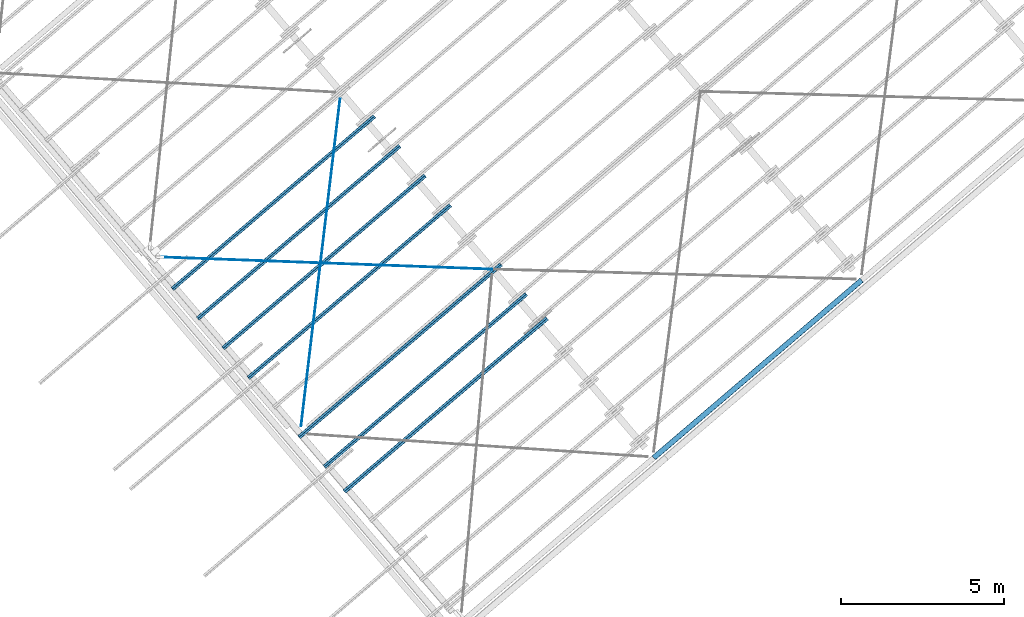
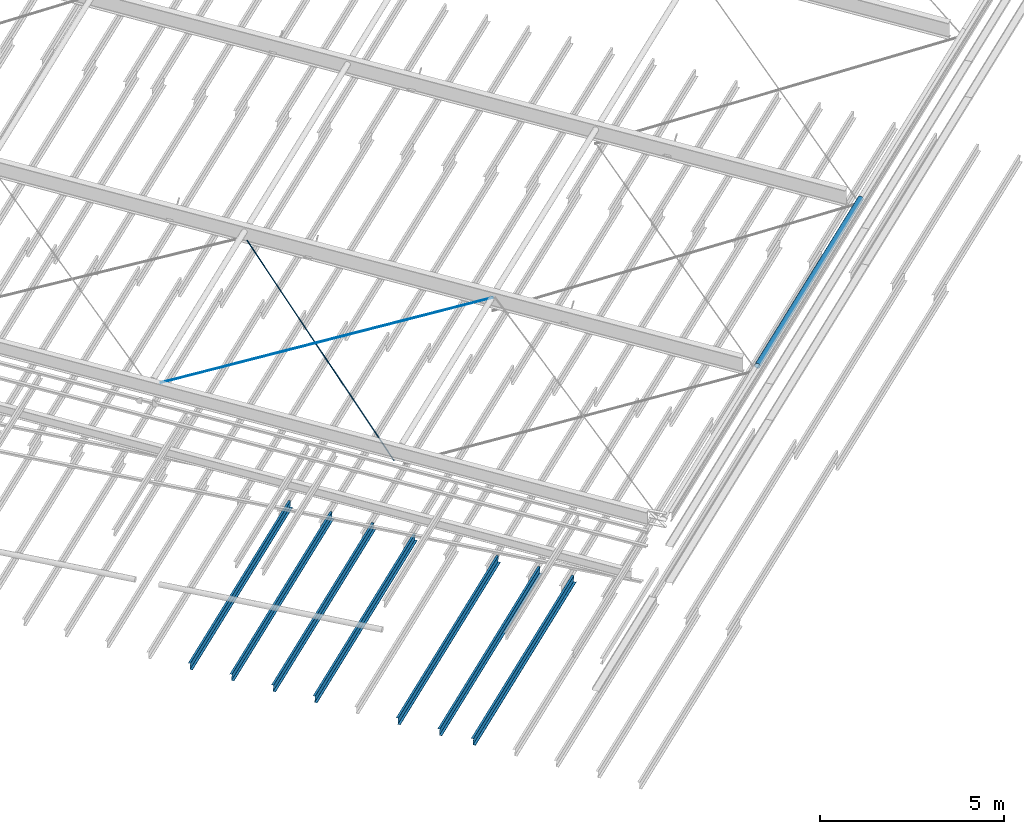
# One storey, part 4 of 25: 10 beams, 2 elements without a shape of their own.
"""IFC2X3 building model written with IfcOpenShell, lengths in millimetres."""

from ifc_helpers import new_model, entity, si_unit, converted_unit, derived_unit, direction, frame, frame_2d, origin, origin_2d_with_axis, place, context, subcontext, project, spatial, polyline, circle_curve, parameter, trimmed, segment, composite_curve, circle, hollow_circle, outline, extrude, material, type_object, element, aggregate, save


model = new_model("IFC2X3")

# Units and contexts
model_context = context("Model", 3, precision=0.01, world=origin(), true_north=direction((6.123031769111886e-17, 1.0)))
body_context = subcontext(model_context, "Body", "Model", "MODEL_VIEW")
ifc_project = project(units=[si_unit("LENGTHUNIT", "METRE", prefix="MILLI"), si_unit("AREAUNIT", "SQUARE_METRE"), si_unit("VOLUMEUNIT", "CUBIC_METRE"), converted_unit("PLANEANGLEUNIT", "DEGREE", entity("IfcRatioMeasure", 0.017453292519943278), si_unit("PLANEANGLEUNIT", "RADIAN"), dimensions=[0, 0, 0, 0, 0, 0, 0]), si_unit("MASSUNIT", "GRAM", prefix="KILO"), derived_unit("MASSDENSITYUNIT", [(si_unit("MASSUNIT", "GRAM", prefix="KILO"), 1), (si_unit("LENGTHUNIT", "METRE"), -3)]), derived_unit("MOMENTOFINERTIAUNIT", [(si_unit("LENGTHUNIT", "METRE"), 4)]), si_unit("TIMEUNIT", "SECOND"), si_unit("FREQUENCYUNIT", "HERTZ"), si_unit("THERMODYNAMICTEMPERATUREUNIT", "DEGREE_CELSIUS"), derived_unit("THERMALTRANSMITTANCEUNIT", [(si_unit("MASSUNIT", "GRAM", prefix="KILO"), 1), (si_unit("THERMODYNAMICTEMPERATUREUNIT", "KELVIN"), -1), (si_unit("TIMEUNIT", "SECOND"), -3)]), derived_unit("VOLUMETRICFLOWRATEUNIT", [(si_unit("LENGTHUNIT", "METRE"), 3), (si_unit("TIMEUNIT", "SECOND"), -1)]), derived_unit("MASSFLOWRATEUNIT", [(si_unit("MASSUNIT", "GRAM", prefix="KILO"), 1), (si_unit("TIMEUNIT", "SECOND"), -1)]), derived_unit("ROTATIONALFREQUENCYUNIT", [(si_unit("TIMEUNIT", "SECOND"), -1)]), si_unit("ELECTRICCURRENTUNIT", "AMPERE"), si_unit("ELECTRICVOLTAGEUNIT", "VOLT"), si_unit("POWERUNIT", "WATT"), si_unit("FORCEUNIT", "NEWTON", prefix="KILO"), si_unit("ILLUMINANCEUNIT", "LUX"), si_unit("LUMINOUSFLUXUNIT", "LUMEN"), si_unit("LUMINOUSINTENSITYUNIT", "CANDELA"), derived_unit("USERDEFINED", [(si_unit("MASSUNIT", "GRAM", prefix="KILO"), -1), (si_unit("LENGTHUNIT", "METRE"), -2), (si_unit("TIMEUNIT", "SECOND"), 3), (si_unit("LUMINOUSFLUXUNIT", "LUMEN"), 1)]), derived_unit("SOUNDPOWERUNIT", [(si_unit("MASSUNIT", "GRAM", prefix="KILO"), 1), (si_unit("LENGTHUNIT", "METRE"), 2), (si_unit("TIMEUNIT", "SECOND"), -3)]), derived_unit("LINEARVELOCITYUNIT", [(si_unit("LENGTHUNIT", "METRE"), 1), (si_unit("TIMEUNIT", "SECOND"), -1)]), si_unit("PRESSUREUNIT", "PASCAL"), derived_unit("USERDEFINED", [(si_unit("LENGTHUNIT", "METRE"), -2), (si_unit("MASSUNIT", "GRAM", prefix="KILO"), 1), (si_unit("TIMEUNIT", "SECOND"), -2)]), derived_unit("LINEARFORCEUNIT", [(si_unit("MASSUNIT", "GRAM", prefix="KILO"), 1), (si_unit("LENGTHUNIT", "METRE"), 1), (si_unit("TIMEUNIT", "SECOND"), -2), (si_unit("LENGTHUNIT", "METRE"), -1)]), derived_unit("PLANARFORCEUNIT", [(si_unit("MASSUNIT", "GRAM", prefix="KILO"), 1), (si_unit("LENGTHUNIT", "METRE"), 1), (si_unit("TIMEUNIT", "SECOND"), -2), (si_unit("LENGTHUNIT", "METRE"), -2)])], contexts=[model_context])

# Site, building, storey
site_placement = place(None, frame((962.4174930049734, -6014.433753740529, 0.0), z_axis=(0.0, 0.0, 1.0), x_axis=(0.7601792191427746, 0.649713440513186, 0.0)))
site = spatial("IfcSite", under=ifc_project, at=site_placement, Name="Default", CompositionType="ELEMENT")
building_placement = place(site_placement, origin())
building = spatial("IfcBuilding", under=site, at=building_placement, CompositionType="ELEMENT")
storey_placement = place(building_placement, frame((0.0, 0.0, 9200.0)))
storey = spatial("IfcBuildingStorey", under=building, at=storey_placement, Name="TOP OF CEILING", CompositionType="ELEMENT", Elevation=9200.000000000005)

# Beams
ifc_material_1 = material(Name="Metal - Steel - 300 MPa")
beam_type_1 = type_object("IfcBeamType", Name="ADSK_AU_CHS-Circular Hollow Sections (AS 1163_C350):168.3x6.4CHS", PredefinedType="NOTDEFINED")
beam_1_placement = place(storey_placement, frame((162338.96020470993, -25988.428082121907, 2036.6362333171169)))
element("IfcBeam", 1, at=beam_1_placement, inside=storey, type_object=beam_type_1, material=ifc_material_1, Name="ADSK_AU_CHS-Circular Hollow Sections (AS 1163_C350):168.3x6.4CHS", ObjectType="ADSK_AU_CHS-Circular Hollow Sections (AS 1163_C350):168.3x6.4CHS", context=body_context, shape_type="SweptSolid", body=[
    extrude(hollow_circle(Radius=84.15000000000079, WallThickness=6.4000000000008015, at=origin_2d_with_axis()), frame((0.0, 0.0, -84.15000000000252), z_axis=(1.0, 0.0, 0.0), x_axis=(0.0, 1.0, 0.0)), (0.0, 0.0, 1.0), 8400.000000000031),
])
beam_type_2 = type_object("IfcBeamType", Name="ADSK_AU_Round Bars (AS 3679_1):24ROD", PredefinedType="NOTDEFINED")
beam_2_placement = place(storey_placement, frame((154571.26020471, -18370.815582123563, 2010.0), z_axis=(-0.055954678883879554, -0.0515895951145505, 0.9970995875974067), x_axis=(0.733069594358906, 0.675882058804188, 0.07610789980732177)))
element("IfcBeam", 2, at=beam_2_placement, inside=storey, type_object=beam_type_2, Name="ADSK_AU_Round Bars (AS 3679_1):24ROD", ObjectType="ADSK_AU_Round Bars (AS 3679_1):24ROD", context=body_context, shape_type="SweptSolid", body=[
    extrude(circle(Radius=12.000000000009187, at=frame_2d((-6.253873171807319e-24, -8.637810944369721e-12), x_axis=(1.0, 0.0))), frame((233.09999999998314, 0.0, -12.0), z_axis=(1.0, 0.0, 0.0), x_axis=(0.0, -1.0, 0.0)), (0.0, 0.0, 1.0), 10146.900000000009),
])
beam_3_placement = place(storey_placement, frame((162338.96020470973, -18370.81558212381, 2450.0), z_axis=(0.03747797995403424, -0.03448641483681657, 0.9987022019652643), x_axis=(-0.7349107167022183, 0.6762487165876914, 0.05093046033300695)))
element("IfcBeam", 3, at=beam_3_placement, inside=storey, type_object=beam_type_2, Name="ADSK_AU_Round Bars (AS 3679_1):24ROD", ObjectType="ADSK_AU_Round Bars (AS 3679_1):24ROD", context=body_context, shape_type="SweptSolid", body=[
    extrude(circle(Radius=12.000000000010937, at=frame_2d((-1.5936896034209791e-12, -1.3052229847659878e-11), x_axis=(1.0, 0.0))), frame((0.0, 0.0, -12.0), z_axis=(1.0, 0.0, 0.0), x_axis=(0.0, -1.0, 0.0)), (0.0, 0.0, 1.0), 10210.000000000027),
])

# Assembly, beams
assembly_1_placement = place(storey_placement, origin())
assembly_1 = element("IfcElementAssembly", 4, at=assembly_1_placement, inside=storey, Name="Structural Beam System:Structural Beam System 1", ObjectType="Structural Beam System:Structural Beam System 1", AssemblyPlace="NOTDEFINED", PredefinedType="BEAM_GRID")
ifc_material_2 = material(Name="Metal - Steel - 345 MPa")
beam_type_3 = type_object("IfcBeamType", Name="ADSK_AU_Light Gauge-Zeds:Z20015", PredefinedType="NOTDEFINED")
beam_4_placement = place(building_placement, frame((162638.96020471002, -12444.667171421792, 3319.7924881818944), z_axis=(0.0, 0.0, 1.0), x_axis=(-1.0, 0.0, 0.0)))
beam_4 = element("IfcBeam", 5, at=beam_4_placement, type_object=beam_type_3, material=ifc_material_2, Name="ADSK_AU_Light Gauge-Zeds:Z20015", ObjectType="ADSK_AU_Light Gauge-Zeds:Z20015", context=body_context, shape_type="SweptSolid", body=[
    extrude(outline(composite_curve([segment(polyline([(100.0, 1.0), (100.0, -69.0)]), True, "CONTINUOUS"), segment(trimmed(circle_curve(frame_2d((98.0, -69.0), x_axis=(0.0, -1.0)), 2.000000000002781), [parameter(0.0)], [parameter(89.99999999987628)], True, "PARAMETER"), False, "CONTINUOUS"), segment(polyline([(98.0, -71.0), (81.49999999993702, -71.0)]), True, "CONTINUOUS"), segment(polyline([(81.49999999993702, -71.0), (81.49999999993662, -72.50000000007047)]), True, "CONTINUOUS"), segment(polyline([(81.49999999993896, -72.50000000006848), (98.0, -72.5000000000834)]), True, "CONTINUOUS"), segment(trimmed(circle_curve(frame_2d((98.0, -69.0), x_axis=(1.0, 0.0)), 3.5000000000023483), [parameter(270.00000000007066)], [parameter(0.0)], True, "PARAMETER"), True, "CONTINUOUS"), segment(polyline([(101.49999999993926, -69.0), (101.50000000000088, 1.0)]), True, "CONTINUOUS"), segment(trimmed(circle_curve(frame_2d((98.0, 1.0), x_axis=(0.0, 1.0)), 3.500000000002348), [parameter(270.00000000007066)], [parameter(0.0)], True, "PARAMETER"), True, "CONTINUOUS"), segment(polyline([(98.0, 4.49999999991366), (-98.0, 4.500000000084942)]), True, "CONTINUOUS"), segment(trimmed(circle_curve(frame_2d((-98.0, 6.500000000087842), x_axis=(-1.0, 0.0)), 2.0000000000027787), [parameter(0.0)], [parameter(89.99999999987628)], True, "PARAMETER"), False, "CONTINUOUS"), segment(polyline([(-100.0, 6.500000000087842), (-100.0, 64.0)]), True, "CONTINUOUS"), segment(trimmed(circle_curve(frame_2d((-98.0, 64.0), x_axis=(0.0, 1.0)), 2.000000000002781), [parameter(0.0)], [parameter(89.99999999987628)], True, "PARAMETER"), False, "CONTINUOUS"), segment(polyline([(-98.0, 66.0), (-81.49999999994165, 66.0)]), True, "CONTINUOUS"), segment(polyline([(-81.4999999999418, 66.0), (-81.49999999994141, 67.5000000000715)]), True, "CONTINUOUS"), segment(polyline([(-81.49999999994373, 67.50000000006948), (-98.0, 67.50000000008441)]), True, "CONTINUOUS"), segment(trimmed(circle_curve(frame_2d((-98.0, 64.0), x_axis=(-1.0, 0.0)), 3.500000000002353), [parameter(270.00000000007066)], [parameter(0.0)], True, "PARAMETER"), True, "CONTINUOUS"), segment(polyline([(-101.49999999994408, 64.0), (-101.4999999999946, 6.500000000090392)]), True, "CONTINUOUS"), segment(trimmed(circle_curve(frame_2d((-98.0, 6.500000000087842), x_axis=(0.0, -1.0)), 3.5000000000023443), [parameter(270.00000000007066)], [parameter(0.0)], True, "PARAMETER"), True, "CONTINUOUS"), segment(polyline([(-98.0, 3.0), (98.0, 3.0)]), True, "CONTINUOUS"), segment(trimmed(circle_curve(frame_2d((98.0, 1.0), x_axis=(1.0, 0.0)), 2.000000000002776), [parameter(0.0)], [parameter(89.99999999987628)], True, "PARAMETER"), False, "CONTINUOUS")], self_intersect=False)), frame((0.013129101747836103, -2.5912438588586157, -101.56665523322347), z_axis=(-1.0, 0.0, 0.0), x_axis=(0.0, -0.06975647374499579, -0.9975640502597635)), (0.0, 0.0, -1.0), 8164.000000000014),
])
beam_5_placement = place(building_placement, frame((162638.96020471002, -13641.744031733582, 3236.0847196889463), z_axis=(0.0, 0.0, 1.0), x_axis=(-1.0, 0.0, 0.0)))
beam_5 = element("IfcBeam", 6, at=beam_5_placement, type_object=beam_type_3, material=ifc_material_2, Name="ADSK_AU_Light Gauge-Zeds:Z20015", ObjectType="ADSK_AU_Light Gauge-Zeds:Z20015", context=body_context, shape_type="SweptSolid", body=[
    extrude(outline(composite_curve([segment(polyline([(100.0, 1.0), (100.0, -69.0)]), True, "CONTINUOUS"), segment(trimmed(circle_curve(frame_2d((98.0, -69.0), x_axis=(0.0, -1.0)), 2.000000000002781), [parameter(0.0)], [parameter(89.99999999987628)], True, "PARAMETER"), False, "CONTINUOUS"), segment(polyline([(98.0, -71.0), (81.49999999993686, -71.0)]), True, "CONTINUOUS"), segment(polyline([(81.49999999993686, -71.0), (81.49999999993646, -72.50000000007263)]), True, "CONTINUOUS"), segment(polyline([(81.49999999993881, -72.50000000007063), (98.0, -72.50000000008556)]), True, "CONTINUOUS"), segment(trimmed(circle_curve(frame_2d((98.0, -69.0), x_axis=(1.0, 0.0)), 3.5000000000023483), [parameter(270.00000000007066)], [parameter(0.0)], True, "PARAMETER"), True, "CONTINUOUS"), segment(polyline([(101.49999999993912, -69.0), (101.50000000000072, 1.0)]), True, "CONTINUOUS"), segment(trimmed(circle_curve(frame_2d((98.0, 1.0), x_axis=(0.0, 1.0)), 3.500000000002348), [parameter(270.00000000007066)], [parameter(0.0)], True, "PARAMETER"), True, "CONTINUOUS"), segment(polyline([(98.0, 4.4999999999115), (-98.0, 4.500000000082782)]), True, "CONTINUOUS"), segment(trimmed(circle_curve(frame_2d((-98.0, 6.500000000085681), x_axis=(-1.0, 0.0)), 2.0000000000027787), [parameter(0.0)], [parameter(89.99999999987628)], True, "PARAMETER"), False, "CONTINUOUS"), segment(polyline([(-100.0, 6.500000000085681), (-100.0, 64.0)]), True, "CONTINUOUS"), segment(trimmed(circle_curve(frame_2d((-98.0, 64.0), x_axis=(0.0, 1.0)), 2.000000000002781), [parameter(0.0)], [parameter(89.99999999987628)], True, "PARAMETER"), False, "CONTINUOUS"), segment(polyline([(-98.0, 66.0), (-81.4999999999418, 66.0)]), True, "CONTINUOUS"), segment(polyline([(-81.49999999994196, 66.0), (-81.49999999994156, 67.50000000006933)]), True, "CONTINUOUS"), segment(polyline([(-81.49999999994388, 67.50000000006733), (-98.0, 67.50000000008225)]), True, "CONTINUOUS"), segment(trimmed(circle_curve(frame_2d((-98.0, 64.0), x_axis=(-1.0, 0.0)), 3.500000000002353), [parameter(270.00000000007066)], [parameter(0.0)], True, "PARAMETER"), True, "CONTINUOUS"), segment(polyline([(-101.49999999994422, 64.0), (-101.49999999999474, 6.500000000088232)]), True, "CONTINUOUS"), segment(trimmed(circle_curve(frame_2d((-98.0, 6.500000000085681), x_axis=(0.0, -1.0)), 3.5000000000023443), [parameter(270.00000000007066)], [parameter(0.0)], True, "PARAMETER"), True, "CONTINUOUS"), segment(polyline([(-98.0, 3.0), (98.0, 3.0)]), True, "CONTINUOUS"), segment(trimmed(circle_curve(frame_2d((98.0, 1.0), x_axis=(1.0, 0.0)), 2.000000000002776), [parameter(0.0)], [parameter(89.99999999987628)], True, "PARAMETER"), False, "CONTINUOUS")], self_intersect=False)), frame((0.013129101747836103, -2.5912438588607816, -101.56665523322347), z_axis=(-1.0, 0.0, 0.0), x_axis=(0.0, -0.06975647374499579, -0.9975640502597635)), (0.0, 0.0, -1.0), 8164.000000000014),
])
beam_6_placement = place(building_placement, frame((162638.96020471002, -14838.82089204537, 3152.3769511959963), z_axis=(0.0, 0.0, 1.0), x_axis=(-1.0, 0.0, 0.0)))
beam_6 = element("IfcBeam", 7, at=beam_6_placement, type_object=beam_type_3, material=ifc_material_2, Name="ADSK_AU_Light Gauge-Zeds:Z20015", ObjectType="ADSK_AU_Light Gauge-Zeds:Z20015", context=body_context, shape_type="SweptSolid", body=[
    extrude(outline(composite_curve([segment(polyline([(100.0, 1.0), (100.0, -69.0)]), True, "CONTINUOUS"), segment(trimmed(circle_curve(frame_2d((98.0, -69.0), x_axis=(0.0, -1.0)), 2.000000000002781), [parameter(0.0)], [parameter(89.99999999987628)], True, "PARAMETER"), False, "CONTINUOUS"), segment(polyline([(98.0, -71.0), (81.49999999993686, -71.0)]), True, "CONTINUOUS"), segment(polyline([(81.49999999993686, -71.0), (81.49999999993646, -72.50000000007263)]), True, "CONTINUOUS"), segment(polyline([(81.49999999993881, -72.50000000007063), (98.0, -72.50000000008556)]), True, "CONTINUOUS"), segment(trimmed(circle_curve(frame_2d((98.0, -69.0), x_axis=(1.0, 0.0)), 3.5000000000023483), [parameter(270.00000000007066)], [parameter(0.0)], True, "PARAMETER"), True, "CONTINUOUS"), segment(polyline([(101.49999999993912, -69.0), (101.50000000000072, 1.0)]), True, "CONTINUOUS"), segment(trimmed(circle_curve(frame_2d((98.0, 1.0), x_axis=(0.0, 1.0)), 3.500000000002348), [parameter(270.00000000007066)], [parameter(0.0)], True, "PARAMETER"), True, "CONTINUOUS"), segment(polyline([(98.0, 4.4999999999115), (-98.0, 4.500000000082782)]), True, "CONTINUOUS"), segment(trimmed(circle_curve(frame_2d((-98.0, 6.500000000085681), x_axis=(-1.0, 0.0)), 2.0000000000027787), [parameter(0.0)], [parameter(89.99999999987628)], True, "PARAMETER"), False, "CONTINUOUS"), segment(polyline([(-100.0, 6.500000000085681), (-100.0, 64.0)]), True, "CONTINUOUS"), segment(trimmed(circle_curve(frame_2d((-98.0, 64.0), x_axis=(0.0, 1.0)), 2.000000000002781), [parameter(0.0)], [parameter(89.99999999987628)], True, "PARAMETER"), False, "CONTINUOUS"), segment(polyline([(-98.0, 66.0), (-81.4999999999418, 66.0)]), True, "CONTINUOUS"), segment(polyline([(-81.49999999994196, 66.0), (-81.49999999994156, 67.50000000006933)]), True, "CONTINUOUS"), segment(polyline([(-81.49999999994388, 67.50000000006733), (-98.0, 67.50000000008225)]), True, "CONTINUOUS"), segment(trimmed(circle_curve(frame_2d((-98.0, 64.0), x_axis=(-1.0, 0.0)), 3.500000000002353), [parameter(270.00000000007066)], [parameter(0.0)], True, "PARAMETER"), True, "CONTINUOUS"), segment(polyline([(-101.49999999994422, 64.0), (-101.49999999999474, 6.500000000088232)]), True, "CONTINUOUS"), segment(trimmed(circle_curve(frame_2d((-98.0, 6.500000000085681), x_axis=(0.0, -1.0)), 3.5000000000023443), [parameter(270.00000000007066)], [parameter(0.0)], True, "PARAMETER"), True, "CONTINUOUS"), segment(polyline([(-98.0, 3.0), (98.0, 3.0)]), True, "CONTINUOUS"), segment(trimmed(circle_curve(frame_2d((98.0, 1.0), x_axis=(1.0, 0.0)), 2.000000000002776), [parameter(0.0)], [parameter(89.99999999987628)], True, "PARAMETER"), False, "CONTINUOUS")], self_intersect=False)), frame((0.013129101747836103, -2.5912438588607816, -101.56665523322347), z_axis=(-1.0, 0.0, 0.0), x_axis=(0.0, -0.06975647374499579, -0.9975640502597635)), (0.0, 0.0, -1.0), 8164.000000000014),
])
beam_7_placement = place(building_placement, frame((162638.96020471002, -16035.89775235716, 3068.6691827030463), z_axis=(0.0, 0.0, 1.0), x_axis=(-1.0, 0.0, 0.0)))
beam_7 = element("IfcBeam", 8, at=beam_7_placement, type_object=beam_type_3, material=ifc_material_2, Name="ADSK_AU_Light Gauge-Zeds:Z20015", ObjectType="ADSK_AU_Light Gauge-Zeds:Z20015", context=body_context, shape_type="SweptSolid", body=[
    extrude(outline(composite_curve([segment(polyline([(100.0, 1.0), (100.0, -69.0)]), True, "CONTINUOUS"), segment(trimmed(circle_curve(frame_2d((98.0, -69.0), x_axis=(0.0, -1.0)), 2.000000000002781), [parameter(0.0)], [parameter(89.99999999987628)], True, "PARAMETER"), False, "CONTINUOUS"), segment(polyline([(98.0, -71.0), (81.49999999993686, -71.0)]), True, "CONTINUOUS"), segment(polyline([(81.49999999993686, -71.0), (81.49999999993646, -72.50000000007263)]), True, "CONTINUOUS"), segment(polyline([(81.49999999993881, -72.50000000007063), (98.0, -72.50000000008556)]), True, "CONTINUOUS"), segment(trimmed(circle_curve(frame_2d((98.0, -69.0), x_axis=(1.0, 0.0)), 3.5000000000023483), [parameter(270.00000000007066)], [parameter(0.0)], True, "PARAMETER"), True, "CONTINUOUS"), segment(polyline([(101.49999999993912, -69.0), (101.50000000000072, 1.0)]), True, "CONTINUOUS"), segment(trimmed(circle_curve(frame_2d((98.0, 1.0), x_axis=(0.0, 1.0)), 3.500000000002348), [parameter(270.00000000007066)], [parameter(0.0)], True, "PARAMETER"), True, "CONTINUOUS"), segment(polyline([(98.0, 4.4999999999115), (-98.0, 4.500000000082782)]), True, "CONTINUOUS"), segment(trimmed(circle_curve(frame_2d((-98.0, 6.500000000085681), x_axis=(-1.0, 0.0)), 2.0000000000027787), [parameter(0.0)], [parameter(89.99999999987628)], True, "PARAMETER"), False, "CONTINUOUS"), segment(polyline([(-100.0, 6.500000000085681), (-100.0, 64.0)]), True, "CONTINUOUS"), segment(trimmed(circle_curve(frame_2d((-98.0, 64.0), x_axis=(0.0, 1.0)), 2.000000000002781), [parameter(0.0)], [parameter(89.99999999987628)], True, "PARAMETER"), False, "CONTINUOUS"), segment(polyline([(-98.0, 66.0), (-81.4999999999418, 66.0)]), True, "CONTINUOUS"), segment(polyline([(-81.49999999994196, 66.0), (-81.49999999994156, 67.50000000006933)]), True, "CONTINUOUS"), segment(polyline([(-81.49999999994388, 67.50000000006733), (-98.0, 67.50000000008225)]), True, "CONTINUOUS"), segment(trimmed(circle_curve(frame_2d((-98.0, 64.0), x_axis=(-1.0, 0.0)), 3.500000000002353), [parameter(270.00000000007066)], [parameter(0.0)], True, "PARAMETER"), True, "CONTINUOUS"), segment(polyline([(-101.49999999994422, 64.0), (-101.49999999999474, 6.500000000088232)]), True, "CONTINUOUS"), segment(trimmed(circle_curve(frame_2d((-98.0, 6.500000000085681), x_axis=(0.0, -1.0)), 3.5000000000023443), [parameter(270.00000000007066)], [parameter(0.0)], True, "PARAMETER"), True, "CONTINUOUS"), segment(polyline([(-98.0, 3.0), (98.0, 3.0)]), True, "CONTINUOUS"), segment(trimmed(circle_curve(frame_2d((98.0, 1.0), x_axis=(1.0, 0.0)), 2.000000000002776), [parameter(0.0)], [parameter(89.99999999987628)], True, "PARAMETER"), False, "CONTINUOUS")], self_intersect=False)), frame((0.013129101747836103, -2.5912438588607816, -101.56665523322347), z_axis=(-1.0, 0.0, 0.0), x_axis=(0.0, -0.06975647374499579, -0.9975640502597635)), (0.0, 0.0, -1.0), 8164.000000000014),
])
beam_8_placement = place(building_placement, frame((162638.96020471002, -18430.051472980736, 2901.253645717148), z_axis=(0.0, 0.0, 1.0), x_axis=(-1.0, 0.0, 0.0)))
beam_8 = element("IfcBeam", 9, at=beam_8_placement, type_object=beam_type_3, material=ifc_material_2, Name="ADSK_AU_Light Gauge-Zeds:Z20015", ObjectType="ADSK_AU_Light Gauge-Zeds:Z20015", context=body_context, shape_type="SweptSolid", body=[
    extrude(outline(composite_curve([segment(polyline([(100.0, 1.0), (100.0, -69.0)]), True, "CONTINUOUS"), segment(trimmed(circle_curve(frame_2d((98.0, -69.0), x_axis=(0.0, -1.0)), 2.000000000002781), [parameter(0.0)], [parameter(89.99999999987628)], True, "PARAMETER"), False, "CONTINUOUS"), segment(polyline([(98.0, -71.0), (81.49999999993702, -71.0)]), True, "CONTINUOUS"), segment(polyline([(81.49999999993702, -71.0), (81.49999999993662, -72.50000000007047)]), True, "CONTINUOUS"), segment(polyline([(81.49999999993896, -72.50000000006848), (98.0, -72.5000000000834)]), True, "CONTINUOUS"), segment(trimmed(circle_curve(frame_2d((98.0, -69.0), x_axis=(1.0, 0.0)), 3.5000000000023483), [parameter(270.00000000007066)], [parameter(0.0)], True, "PARAMETER"), True, "CONTINUOUS"), segment(polyline([(101.49999999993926, -69.0), (101.50000000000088, 1.0)]), True, "CONTINUOUS"), segment(trimmed(circle_curve(frame_2d((98.0, 1.0), x_axis=(0.0, 1.0)), 3.500000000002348), [parameter(270.00000000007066)], [parameter(0.0)], True, "PARAMETER"), True, "CONTINUOUS"), segment(polyline([(98.0, 4.49999999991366), (-98.0, 4.500000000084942)]), True, "CONTINUOUS"), segment(trimmed(circle_curve(frame_2d((-98.0, 6.500000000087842), x_axis=(-1.0, 0.0)), 2.0000000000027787), [parameter(0.0)], [parameter(89.99999999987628)], True, "PARAMETER"), False, "CONTINUOUS"), segment(polyline([(-100.0, 6.500000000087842), (-100.0, 64.0)]), True, "CONTINUOUS"), segment(trimmed(circle_curve(frame_2d((-98.0, 64.0), x_axis=(0.0, 1.0)), 2.000000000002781), [parameter(0.0)], [parameter(89.99999999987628)], True, "PARAMETER"), False, "CONTINUOUS"), segment(polyline([(-98.0, 66.0), (-81.49999999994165, 66.0)]), True, "CONTINUOUS"), segment(polyline([(-81.4999999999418, 66.0), (-81.49999999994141, 67.5000000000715)]), True, "CONTINUOUS"), segment(polyline([(-81.49999999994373, 67.50000000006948), (-98.0, 67.50000000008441)]), True, "CONTINUOUS"), segment(trimmed(circle_curve(frame_2d((-98.0, 64.0), x_axis=(-1.0, 0.0)), 3.500000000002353), [parameter(270.00000000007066)], [parameter(0.0)], True, "PARAMETER"), True, "CONTINUOUS"), segment(polyline([(-101.49999999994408, 64.0), (-101.4999999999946, 6.500000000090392)]), True, "CONTINUOUS"), segment(trimmed(circle_curve(frame_2d((-98.0, 6.500000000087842), x_axis=(0.0, -1.0)), 3.5000000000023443), [parameter(270.00000000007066)], [parameter(0.0)], True, "PARAMETER"), True, "CONTINUOUS"), segment(polyline([(-98.0, 3.0), (98.0, 3.0)]), True, "CONTINUOUS"), segment(trimmed(circle_curve(frame_2d((98.0, 1.0), x_axis=(1.0, 0.0)), 2.000000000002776), [parameter(0.0)], [parameter(89.99999999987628)], True, "PARAMETER"), False, "CONTINUOUS")], self_intersect=False)), frame((0.013129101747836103, -2.5912438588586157, -101.56665523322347), z_axis=(-1.0, 0.0, 0.0), x_axis=(0.0, -0.06975647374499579, -0.9975640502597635)), (0.0, 0.0, -1.0), 8164.000000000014),
])
beam_9_placement = place(building_placement, frame((162638.96020471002, -19627.128333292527, 2817.5458772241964), z_axis=(0.0, 0.0, 1.0), x_axis=(-1.0, 0.0, 0.0)))
beam_9 = element("IfcBeam", 10, at=beam_9_placement, type_object=beam_type_3, material=ifc_material_2, Name="ADSK_AU_Light Gauge-Zeds:Z20015", ObjectType="ADSK_AU_Light Gauge-Zeds:Z20015", context=body_context, shape_type="SweptSolid", body=[
    extrude(outline(composite_curve([segment(polyline([(100.0, 1.0), (100.0, -69.0)]), True, "CONTINUOUS"), segment(trimmed(circle_curve(frame_2d((98.0, -69.0), x_axis=(0.0, -1.0)), 1.9999999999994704), [parameter(0.0)], [parameter(90.00000000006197)], True, "PARAMETER"), False, "CONTINUOUS"), segment(polyline([(98.0, -71.0), (81.50000000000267, -71.0)]), True, "CONTINUOUS"), segment(polyline([(81.50000000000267, -71.0), (81.50000000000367, -72.49999999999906)]), True, "CONTINUOUS"), segment(polyline([(81.50000000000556, -72.50000000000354), (98.0, -72.500000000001)]), True, "CONTINUOUS"), segment(trimmed(circle_curve(frame_2d((98.0, -69.0), x_axis=(1.0, 0.0)), 3.499999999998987), [parameter(269.99999999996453)], [parameter(0.0)], True, "PARAMETER"), True, "CONTINUOUS"), segment(polyline([(101.50000000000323, -69.0), (101.49999999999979, 1.0)]), True, "CONTINUOUS"), segment(trimmed(circle_curve(frame_2d((98.0, 1.0), x_axis=(0.0, 1.0)), 3.4999999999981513), [parameter(269.99999999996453)], [parameter(0.0)], True, "PARAMETER"), True, "CONTINUOUS"), segment(polyline([(98.0, 4.500000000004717), (-98.0, 4.499999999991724)]), True, "CONTINUOUS"), segment(trimmed(circle_curve(frame_2d((-98.0, 6.499999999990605), x_axis=(-1.0, 0.0)), 1.9999999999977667), [parameter(0.0)], [parameter(90.00000000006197)], True, "PARAMETER"), False, "CONTINUOUS"), segment(polyline([(-100.0, 6.499999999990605), (-100.0, 64.0)]), True, "CONTINUOUS"), segment(trimmed(circle_curve(frame_2d((-98.0, 64.0), x_axis=(0.0, 1.0)), 1.9999999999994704), [parameter(0.0)], [parameter(90.00000000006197)], True, "PARAMETER"), False, "CONTINUOUS"), segment(polyline([(-98.0, 66.0), (-81.50000000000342, 66.0)]), True, "CONTINUOUS"), segment(polyline([(-81.50000000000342, 66.0), (-81.50000000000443, 67.49999999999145)]), True, "CONTINUOUS"), segment(polyline([(-81.50000000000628, 67.49999999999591), (-98.0, 67.49999999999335)]), True, "CONTINUOUS"), segment(trimmed(circle_curve(frame_2d((-98.0, 64.0), x_axis=(-1.0, 0.0)), 3.499999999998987), [parameter(269.99999999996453)], [parameter(0.0)], True, "PARAMETER"), True, "CONTINUOUS"), segment(polyline([(-101.50000000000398, 64.0), (-101.50000000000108, 6.4999999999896)]), True, "CONTINUOUS"), segment(trimmed(circle_curve(frame_2d((-98.0, 6.499999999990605), x_axis=(0.0, -1.0)), 3.49999999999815), [parameter(269.99999999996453)], [parameter(0.0)], True, "PARAMETER"), True, "CONTINUOUS"), segment(polyline([(-98.0, 3.0), (98.0, 3.0)]), True, "CONTINUOUS"), segment(trimmed(circle_curve(frame_2d((98.0, 1.0), x_axis=(1.0, 0.0)), 1.9999999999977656), [parameter(0.0)], [parameter(90.00000000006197)], True, "PARAMETER"), False, "CONTINUOUS")], self_intersect=False)), frame((0.013129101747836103, -2.591243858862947, -101.56665523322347), z_axis=(-1.0, 0.0, 0.0), x_axis=(0.0, -0.06975647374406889, -0.9975640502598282)), (0.0, 0.0, -1.0), 8164.0000000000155),
])
aggregate(assembly_1, [beam_4, beam_5, beam_6, beam_7, beam_8, beam_9])

# Assembly, beam
assembly_2_placement = place(storey_placement, origin())
assembly_2 = element("IfcElementAssembly", 11, at=assembly_2_placement, inside=storey, Name="Structural Beam System:Structural Beam System 1", ObjectType="Structural Beam System:Structural Beam System 1", AssemblyPlace="NOTDEFINED", PredefinedType="BEAM_GRID")
ifc_material_3 = material(Name="Metal - Light Gauge")
beam_type_4 = type_object("IfcBeamType", Name="ADSK_AU_Light Gauge-Zeds:Z20024", PredefinedType="NOTDEFINED")
beam_10_placement = place(building_placement, frame((162638.67477392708, -20603.408452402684, 2749.277720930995), z_axis=(0.0, 0.0, 1.0), x_axis=(-1.0, 0.0, 0.0)))
beam_10 = element("IfcBeam", 12, at=beam_10_placement, type_object=beam_type_4, material=ifc_material_3, Name="ADSK_AU_Light Gauge-Zeds:Z20024", ObjectType="ADSK_AU_Light Gauge-Zeds:Z20024", context=body_context, shape_type="SweptSolid", body=[
    extrude(outline(composite_curve([segment(polyline([(99.10000000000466, 1.030000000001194), (99.10000000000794, -71.6699999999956)]), True, "CONTINUOUS"), segment(trimmed(circle_curve(frame_2d((97.10000000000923, -71.66999999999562), x_axis=(0.0, -1.0)), 1.9999999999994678), [parameter(0.0)], [parameter(90.00000000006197)], True, "PARAMETER"), False, "CONTINUOUS"), segment(polyline([(97.10000000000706, -73.66999999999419), (79.50000000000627, -73.66999999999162)]), True, "CONTINUOUS"), segment(polyline([(79.50000000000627, -73.66999999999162), (79.50000000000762, -76.0699999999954)]), True, "CONTINUOUS"), segment(polyline([(79.50000000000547, -76.06999999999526), (97.10000000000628, -76.06999999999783)]), True, "CONTINUOUS"), segment(trimmed(circle_curve(frame_2d((97.10000000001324, -71.67000000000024), x_axis=(1.0, 0.0)), 4.39999999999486), [parameter(269.9999999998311)], [parameter(0.0)], True, "PARAMETER"), True, "CONTINUOUS"), segment(polyline([(101.5000000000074, -71.66999999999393), (101.50000000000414, 1.0300000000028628)]), True, "CONTINUOUS"), segment(trimmed(circle_curve(frame_2d((97.10000000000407, 1.0300000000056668), x_axis=(0.0, 1.0)), 4.399999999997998), [parameter(269.9999999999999)], [parameter(0.0)], True, "PARAMETER"), True, "CONTINUOUS"), segment(polyline([(97.1000000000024, 5.430000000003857), (-97.09999999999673, 5.42999999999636)]), True, "CONTINUOUS"), segment(trimmed(circle_curve(frame_2d((-97.0999999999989, 7.42999999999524), x_axis=(-1.0, 0.0)), 1.9999999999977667), [parameter(0.0)], [parameter(90.00000000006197)], True, "PARAMETER"), False, "CONTINUOUS"), segment(polyline([(-99.09999999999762, 7.42999999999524), (-99.09999999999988, 66.0299999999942)]), True, "CONTINUOUS"), segment(trimmed(circle_curve(frame_2d((-97.100000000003, 66.02999999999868), x_axis=(0.0, 1.0)), 1.9999999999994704), [parameter(0.0)], [parameter(90.00000000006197)], True, "PARAMETER"), False, "CONTINUOUS"), segment(polyline([(-97.10000000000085, 68.02999999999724), (-79.50000000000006, 68.02999999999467)]), True, "CONTINUOUS"), segment(polyline([(-79.4999999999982, 68.02999999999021), (-79.49999999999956, 70.42999999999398)]), True, "CONTINUOUS"), segment(polyline([(-79.49999999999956, 70.42999999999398), (-97.10000000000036, 70.42999999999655)]), True, "CONTINUOUS"), segment(trimmed(circle_curve(frame_2d((-97.10000000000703, 66.0300000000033), x_axis=(-1.0, 0.0)), 4.3999999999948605), [parameter(269.9999999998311)], [parameter(0.0)], True, "PARAMETER"), True, "CONTINUOUS"), segment(polyline([(-101.49999999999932, 66.02999999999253), (-101.49999999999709, 7.429999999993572)]), True, "CONTINUOUS"), segment(trimmed(circle_curve(frame_2d((-97.0999999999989, 7.42999999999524), x_axis=(0.0, -1.0)), 4.399999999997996), [parameter(269.9999999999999)], [parameter(0.0)], True, "PARAMETER"), True, "CONTINUOUS"), segment(polyline([(-97.09999999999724, 3.0299999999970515), (97.10000000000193, 3.0300000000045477)]), True, "CONTINUOUS"), segment(trimmed(circle_curve(frame_2d((97.10000000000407, 1.0300000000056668), x_axis=(1.0, 0.0)), 1.9999999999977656), [parameter(0.0)], [parameter(90.00000000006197)], True, "PARAMETER"), False, "CONTINUOUS")], self_intersect=False)), frame((0.0, -1.6635092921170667, -101.63152875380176), z_axis=(-1.0, 0.0, 0.0), x_axis=(0.0, -0.06975647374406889, -0.9975640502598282)), (0.0, 0.0, -1.0), 8192.00000000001),
])
aggregate(assembly_2, [beam_10])

save(model, "model.ifc")
